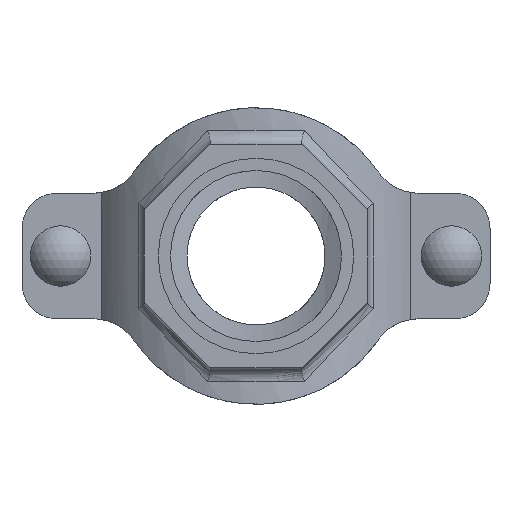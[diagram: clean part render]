
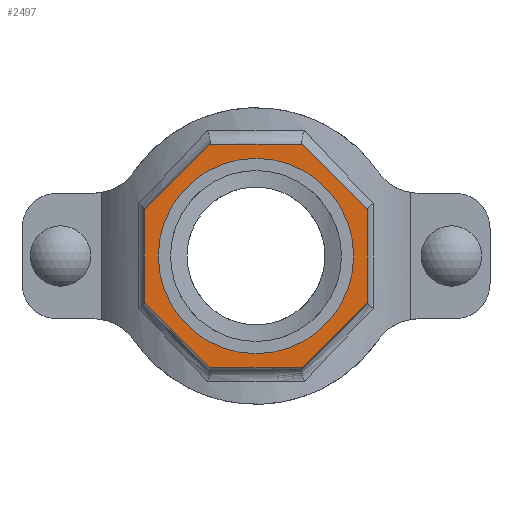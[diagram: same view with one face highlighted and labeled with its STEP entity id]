
A CAD part, front view. The second image highlights one B-rep face of the part: STEP entity #2497.
In plain terms, the highlighted planar face has unit normal (0, -1, 0) as drawn and (0, 1, 0) by its records, which use the part's own axes.
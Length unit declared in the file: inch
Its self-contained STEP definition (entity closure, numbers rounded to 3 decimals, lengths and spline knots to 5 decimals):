
#182=FACE_BOUND('',#449,.T.);
#299=FACE_OUTER_BOUND('',#448,.T.);
#448=EDGE_LOOP('',(#2094,#2095,#2096,#2097,#2098,#2099,#2100,#2101));
#449=EDGE_LOOP('',(#2102));
#586=LINE('',#4727,#770);
#589=LINE('',#4732,#773);
#591=LINE('',#4736,#775);
#593=LINE('',#4740,#777);
#627=LINE('',#5131,#811);
#629=LINE('',#5135,#813);
#631=LINE('',#5139,#815);
#633=LINE('',#5142,#817);
#770=VECTOR('',#3234,0.3937);
#773=VECTOR('',#3239,0.3937);
#775=VECTOR('',#3243,0.3937);
#777=VECTOR('',#3247,0.3937);
#811=VECTOR('',#3361,0.3937);
#813=VECTOR('',#3365,0.3937);
#815=VECTOR('',#3369,0.3937);
#817=VECTOR('',#3373,0.3937);
#901=CIRCLE('',#2754,1.75);
#1083=VERTEX_POINT('',#4724);
#1084=VERTEX_POINT('',#4726);
#1085=VERTEX_POINT('',#4730);
#1086=VERTEX_POINT('',#4734);
#1087=VERTEX_POINT('',#4738);
#1114=VERTEX_POINT('',#4956);
#1138=VERTEX_POINT('',#5130);
#1139=VERTEX_POINT('',#5134);
#1140=VERTEX_POINT('',#5138);
#1390=EDGE_CURVE('',#1084,#1083,#586,.T.);
#1393=EDGE_CURVE('',#1083,#1085,#589,.T.);
#1395=EDGE_CURVE('',#1085,#1086,#591,.T.);
#1397=EDGE_CURVE('',#1086,#1087,#593,.T.);
#1433=EDGE_CURVE('',#1114,#1114,#901,.T.);
#1465=EDGE_CURVE('',#1138,#1084,#627,.T.);
#1467=EDGE_CURVE('',#1139,#1138,#629,.T.);
#1469=EDGE_CURVE('',#1140,#1139,#631,.T.);
#1471=EDGE_CURVE('',#1087,#1140,#633,.T.);
#2094=ORIENTED_EDGE('',*,*,#1471,.T.);
#2095=ORIENTED_EDGE('',*,*,#1469,.T.);
#2096=ORIENTED_EDGE('',*,*,#1467,.T.);
#2097=ORIENTED_EDGE('',*,*,#1465,.T.);
#2098=ORIENTED_EDGE('',*,*,#1390,.T.);
#2099=ORIENTED_EDGE('',*,*,#1393,.T.);
#2100=ORIENTED_EDGE('',*,*,#1395,.T.);
#2101=ORIENTED_EDGE('',*,*,#1397,.T.);
#2102=ORIENTED_EDGE('',*,*,#1433,.T.);
#2242=PLANE('',#2777);
#2497=ADVANCED_FACE('',(#299,#182),#2242,.T.);
#2754=AXIS2_PLACEMENT_3D('',#4957,#3307,#3308);
#2777=AXIS2_PLACEMENT_3D('',#5143,#3374,#3375);
#3234=DIRECTION('',(0.,0.,1.));
#3239=DIRECTION('',(0.707,0.,0.707));
#3243=DIRECTION('',(1.,0.,0.));
#3247=DIRECTION('',(0.707,0.,-0.707));
#3307=DIRECTION('center_axis',(0.,-1.,0.));
#3308=DIRECTION('ref_axis',(-1.,0.,0.));
#3361=DIRECTION('',(-0.707,0.,0.707));
#3365=DIRECTION('',(-1.,0.,0.));
#3369=DIRECTION('',(-0.707,0.,-0.707));
#3373=DIRECTION('',(0.,0.,-1.));
#3374=DIRECTION('center_axis',(0.,1.,0.));
#3375=DIRECTION('ref_axis',(0.,0.,1.));
#4724=CARTESIAN_POINT('',(-2.,5.,0.82843));
#4726=CARTESIAN_POINT('',(-2.,5.,-0.82843));
#4727=CARTESIAN_POINT('',(-2.,5.,0.82843));
#4730=CARTESIAN_POINT('',(-0.82843,5.,2.));
#4732=CARTESIAN_POINT('',(-0.82843,5.,2.));
#4734=CARTESIAN_POINT('',(0.82843,5.,2.));
#4736=CARTESIAN_POINT('',(0.82843,5.,2.));
#4738=CARTESIAN_POINT('',(2.,5.,0.82843));
#4740=CARTESIAN_POINT('',(2.,5.,0.82843));
#4956=CARTESIAN_POINT('',(1.75,5.,0.));
#4957=CARTESIAN_POINT('Origin',(0.,5.,0.));
#5130=CARTESIAN_POINT('',(-0.82843,5.,-2.));
#5131=CARTESIAN_POINT('',(-2.,5.,-0.82843));
#5134=CARTESIAN_POINT('',(0.82843,5.,-2.));
#5135=CARTESIAN_POINT('',(-0.82843,5.,-2.));
#5138=CARTESIAN_POINT('',(2.,5.,-0.82843));
#5139=CARTESIAN_POINT('',(0.82843,5.,-2.));
#5142=CARTESIAN_POINT('',(2.,5.,-0.82843));
#5143=CARTESIAN_POINT('Origin',(0.,5.,0.));
